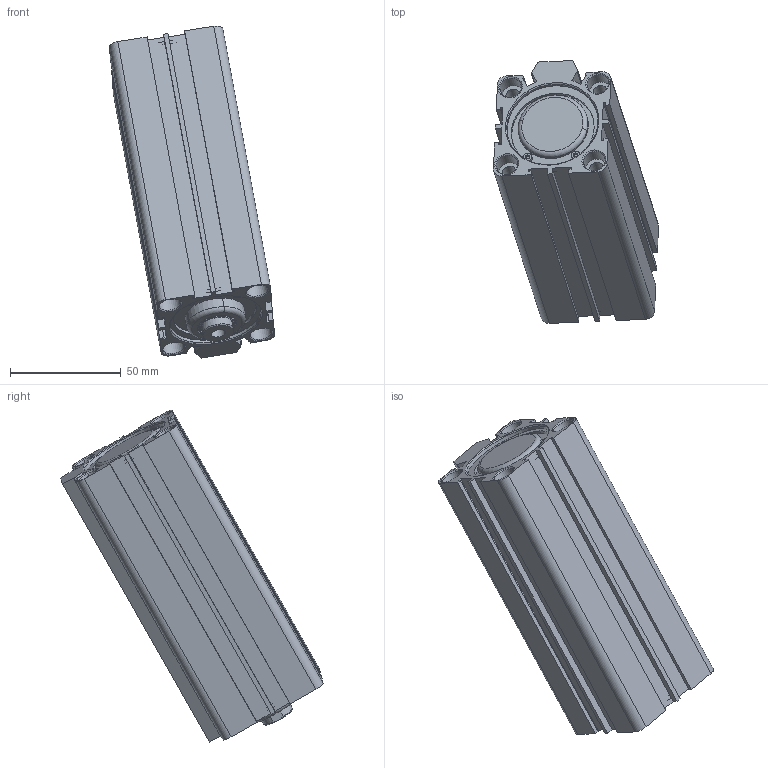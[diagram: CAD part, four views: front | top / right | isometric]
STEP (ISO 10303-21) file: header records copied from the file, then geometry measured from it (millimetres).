
FILE_DESCRIPTION (( 'STEP AP214' ), '1' );
FILE_NAME ('SDA_40_100_WEB.STEP', '2021-01-22T12:17:40', ( 'cagdas' ), ( '' ), 'SwSTEP 2.0', 'SolidWorks 2021', '' );
FILE_SCHEMA (( 'AUTOMOTIVE_DESIGN' ));
Length unit declared in the file: millimetre
Products named in the file (8): SDA40ONKAPAK; SDA_40_BORU_WEB; SDA40PAPYUZUK; 16_MIL_WEB; SDA40SEGMAN; SDA_40_100_WEB; SDA40BOGAZKECESI; SDA40ARKAKAPAK
Assembly tree (8 placements, depth 2):
  SDA_40_100_WEB
    SDA40ARKAKAPAK
    SDA40SEGMAN  x2
    SDA40ONKAPAK
    SDA40PAPYUZUK
    SDA40BOGAZKECESI
    SDA_40_BORU_WEB
    16_MIL_WEB
Bounding box: 74.66 x 118.69 x 150.12 mm (x, y, z)
Volume: 182854.2 mm3; surface area: 86137.1 mm2
Topology: 8 solids, 8 shells, 474 faces, 1175 edges, 758 vertices
Faces by surface type: plane 185, cylinder 128, bspline 85, cone 72, torus 4
Entity records: 19871 total; most frequent: CARTESIAN_POINT 7117, ORIENTED_EDGE 2254, DIRECTION 2025, EDGE_CURVE 1127, VERTEX_POINT 726, AXIS2_PLACEMENT_3D 698, VECTOR 629, LINE 629
